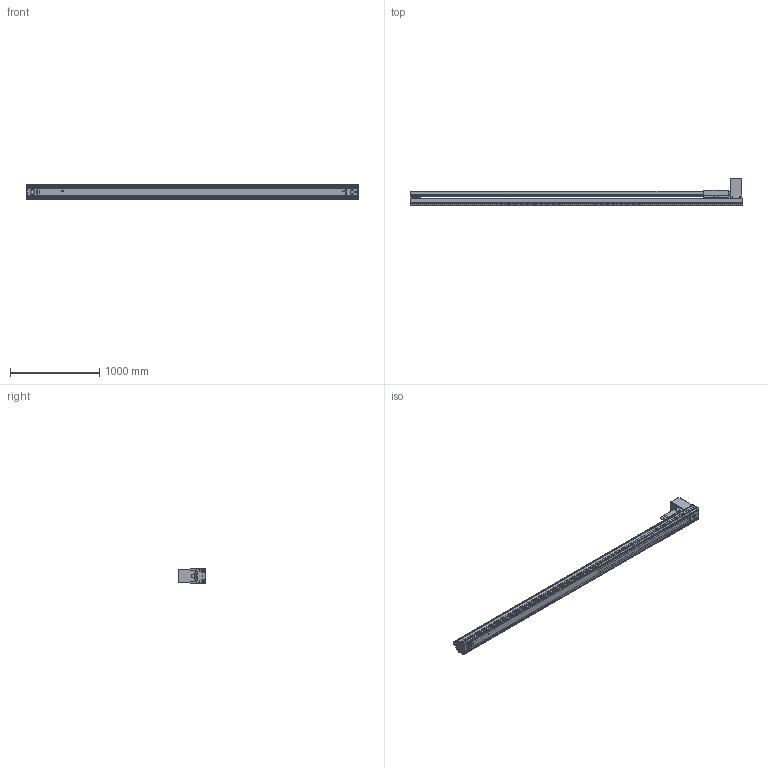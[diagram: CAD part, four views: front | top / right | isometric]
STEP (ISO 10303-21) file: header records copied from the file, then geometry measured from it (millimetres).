
FILE_DESCRIPTION((''),'2;1');
FILE_NAME('BE50G-BT-L19N-W15_IGS_PRT','2017-06-18T',(' '),(''),'PRO/ENGINEER BY PARAMETRIC TECHNOLOGY CORPORATION, 2015030','PRO/ENGINEER BY PARAMETRIC TECHNOLOGY CORPORATION, 2015030','');
FILE_SCHEMA(('CONFIG_CONTROL_DESIGN'));
Products named in the file (1): BE50G-BT-L19N-W15_IGS_PRT
Bounding box: 3720 x 309 x 160 mm (x, y, z)
Volume: 15194316.8 mm3; surface area: 7428403.7 mm2
Topology: 10 solids, 335 shells, 2357 faces, 6989 edges, 4836 vertices
Faces by surface type: cylinder 1293, plane 823, cone 198, sphere 23, torus 20
Entity records: 84038 total; most frequent: CARTESIAN_POINT 20207, DIRECTION 13171, ORIENTED_EDGE 12770, EDGE_CURVE 6915, AXIS2_PLACEMENT_3D 5039, VERTEX_POINT 4836, VECTOR 3093, LINE 3093
